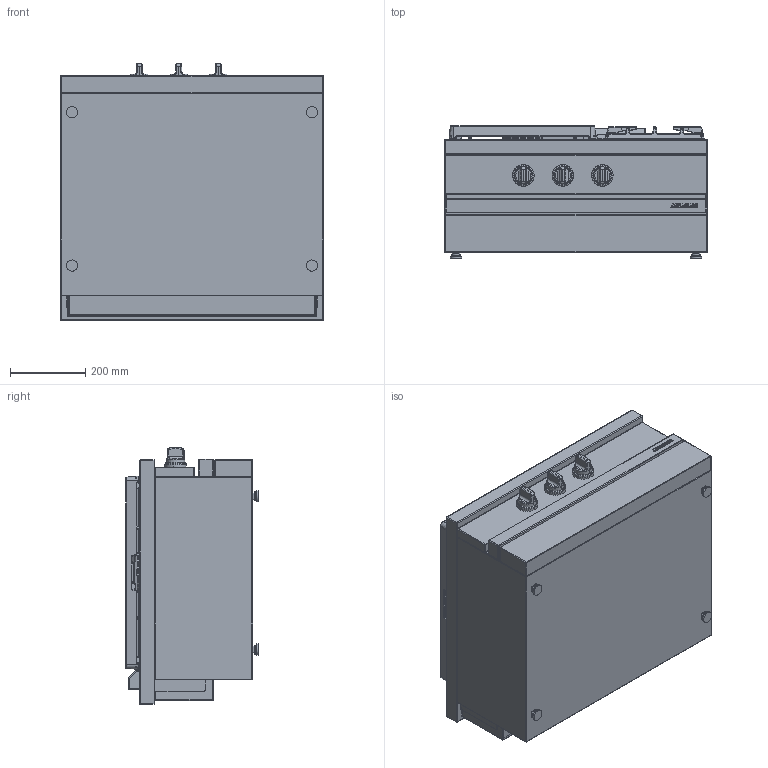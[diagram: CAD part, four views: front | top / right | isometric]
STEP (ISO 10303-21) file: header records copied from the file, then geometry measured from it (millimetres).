
FILE_DESCRIPTION((''),'2;1');
FILE_NAME('CSG730CF_EXPORT_STEP_ASM','2017-11-22T',('r.avril'),(''),'PRO/ENGINEER BY PARAMETRIC TECHNOLOGY CORPORATION, 2014200','PRO/ENGINEER BY PARAMETRIC TECHNOLOGY CORPORATION, 2014200','');
FILE_SCHEMA(('AP203_CONFIGURATION_CONTROLLED_3D_DESIGN_OF_MECHANICAL_PARTS_AND_ASSEMBLIES_MIM_LF { 1 0 10303 403 2 1 2 }'));
Products named in the file (14): SNACKS_AMB_700_EXPORT_STEP; TABLE_700_CLASSIQUE_3F; 5KW; 1_5KW; 3KW; 6537024; 65149005; 90000487_ASM; 65062008; 65062012; 90000549_ASM; TABLE_700_TRADITION_ASM; MANETTE_AMB_EXPORT_STEP; CSG730CF_EXPORT_STEP_ASM
Assembly tree (22 placements, depth 4):
  CSG730CF_EXPORT_STEP_ASM
    SNACKS_AMB_700_EXPORT_STEP
    TABLE_700_TRADITION_ASM
      TABLE_700_CLASSIQUE_3F
      5KW
      1_5KW
      3KW
      90000487_ASM
        6537024
        65149005  x4
      90000549_ASM
        65062008
        65062012
        65149005  x4
    MANETTE_AMB_EXPORT_STEP  x3
Bounding box: 700 x 352 x 682.5 mm (x, y, z)
Volume: 52866551.3 mm3; surface area: 4363924.5 mm2
Topology: 25 solids, 43 shells, 3793 faces, 10368 edges, 7005 vertices
Faces by surface type: plane 1843, cylinder 858, bspline 604, sphere 170, cone 156, torus 142, extrusion 20
Entity records: 164286 total; most frequent: CARTESIAN_POINT 47562, ORIENTED_EDGE 18055, DIRECTION 16168, EDGE_CURVE 9252, PRESENTATION_STYLE_ASSIGNMENT 8673, STYLED_ITEM 8673, CURVE_STYLE 8555, VECTOR 6322
